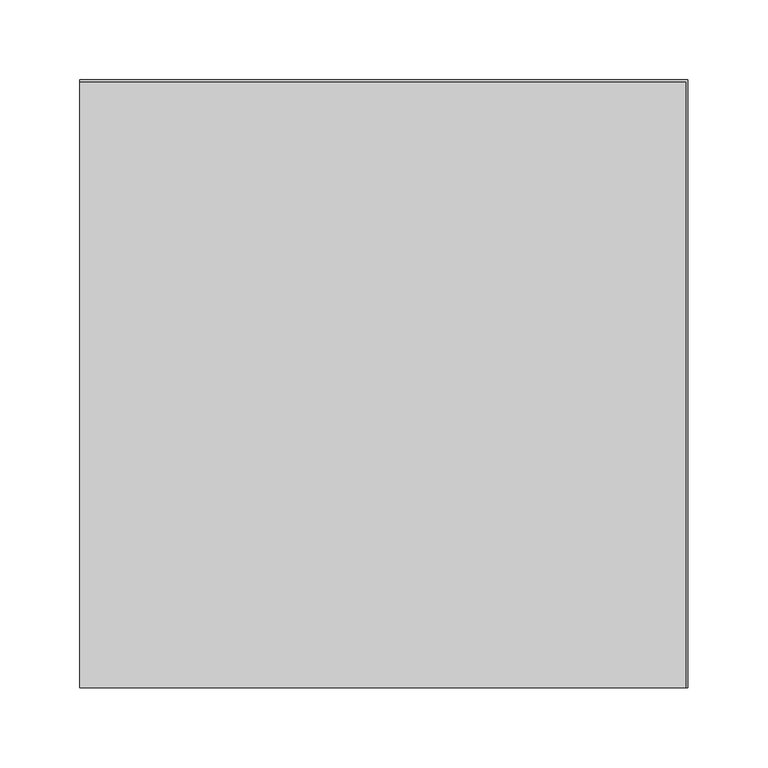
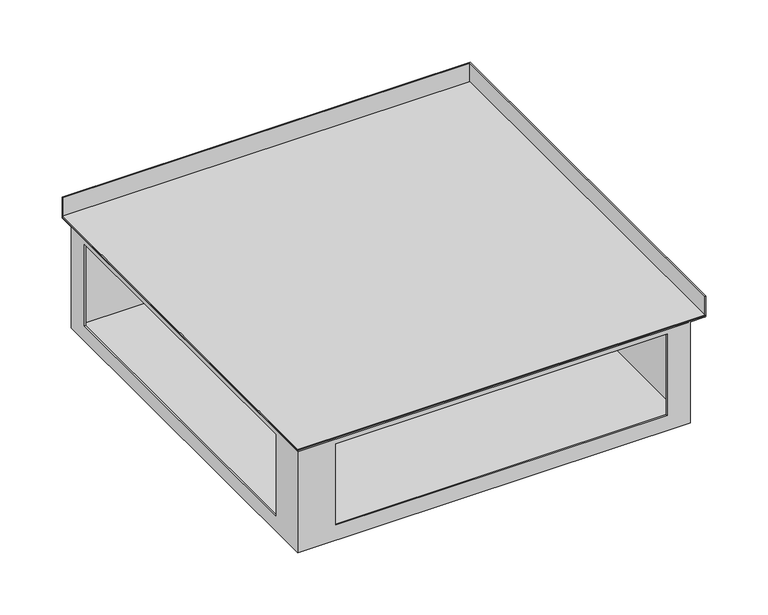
"""IFC4 building model written with IfcOpenShell, lengths in millimetres: proxy geometry, TECHNO_Угловой элемент_KVU : 380_120_90°."""

from ifc_helpers import new_model, si_unit, frame, origin, place, context, project, spatial, polyline, circle_curve, ellipse_curve, outline, extrude, source, transform, mapped, element, save
from ifc_brep_helpers import plane_surface, cylinder_surface, advanced_brep


def mechanical_equipment_f32ddc85(model_context):
    return source(origin(), model_context, "Body", "SolidModel", [
        extrude(outline(polyline([(0.0, 188.8), (378.8, 188.8), (378.8, -190.0), (0.0, -190.0), (0.0, 188.8)])), frame((0.0, 0.0, -19.3), z_axis=(0.0, 0.0, 1.0), x_axis=(1.0, 0.0, 0.0)), (0.0, 0.0, 1.0), 1.2),
        advanced_brep(
        [(1.2, 174.0, -118.8), (1.2, -188.8, -118.8), (364.0, -188.8, -118.8), (364.0, 174.0, -118.8), (0.0, 175.2, -120.0), (365.2, 175.2, -120.0), (365.2, -190.0, -120.0), (0.0, -190.0, -120.0), (0.0, 175.2, -20.5), (0.0, -190.0, -20.5), (0.0, 174.0, -20.5), (0.0, 175.2, -19.3), (0.0, 188.8, -19.3), (0.0, 188.8, 0.0), (0.0, 190.0, 0.0), (0.0, 190.0, -19.3), (0.0, 188.8, -20.5), (0.0, -154.5, -25.0), (0.0, -154.5, -105.0), (0.0, 153.9, -105.0), (0.0, 153.9, -25.0), (365.2, -190.0, -20.5), (378.8, -190.0, -20.5), (380.0, -190.0, -19.3), (380.0, -190.0, 0.0), (378.8, -190.0, 0.0), (378.8, -190.0, -19.3), (365.2, -190.0, -19.3), (364.0, -190.0, -20.5), (35.5, -190.0, -105.0), (35.5, -190.0, -25.0), (343.9, -190.0, -25.0), (343.9, -190.0, -105.0), (365.2, 175.2, -20.5), (1.2, 175.2, -19.3), (1.2, -188.8, -19.3), (365.2, -188.8, -19.3), (378.8, 188.8, -19.3), (365.2, -174.0, -19.3), (16.0, -174.0, -19.3), (16.0, 175.2, -19.3), (365.2, 175.2, -19.3), (16.0, -174.0, -20.5), (16.0, 174.0, -20.5), (364.0, -174.0, -20.5), (364.0, -188.8, -20.5), (1.2, -188.8, -20.5), (1.2, 174.0, -20.5), (1.2, -154.5, -105.0), (1.2, -154.5, -25.0), (1.2, 153.9, -25.0), (1.2, 153.9, -105.0), (35.5, -188.8, -25.0), (35.5, -188.8, -105.0), (343.9, -188.8, -105.0), (343.9, -188.8, -25.0), (380.0, 190.0, -19.3), (380.0, 190.0, 0.0), (378.8, 188.8, 0.0), (378.8, 188.8, -20.5), (364.0, 174.0, -20.5)],
        [
            (0, 1),
            (1, 2),
            (2, 3),
            (3, 0),
            (4, 5),
            (5, 6),
            (6, 7),
            (7, 4),
            (8, 4),
            (7, 9),
            (9, 10),
            (10, 11, circle_curve(frame((0.0, 175.2, -20.5), z_axis=(-1.0, 0.0, 0.0), x_axis=(0.0, -1.0, 0.0)), 1.2)),
            (11, 12),
            (12, 13),
            (13, 14),
            (14, 15),
            (15, 16, circle_curve(frame((0.0, 188.8, -19.3), z_axis=(-1.0, 0.0, 0.0), x_axis=(0.0, -1.0, 0.0)), 1.2)),
            (16, 8),
            (17, 18),
            (18, 19),
            (19, 20),
            (20, 17),
            (6, 21),
            (21, 22),
            (22, 23, circle_curve(frame((378.8, -190.0, -19.3), z_axis=(0.0, -1.0, 0.0), x_axis=(-1.0, 0.0, 0.0)), 1.2)),
            (23, 24),
            (24, 25),
            (25, 26),
            (26, 27),
            (27, 28, circle_curve(frame((365.2, -190.0, -20.5), z_axis=(0.0, -1.0, 0.0), x_axis=(-1.0, 0.0, 0.0)), 1.2)),
            (28, 9),
            (29, 30),
            (30, 31),
            (31, 32),
            (32, 29),
            (8, 33),
            (33, 5),
            (33, 21),
            (34, 35),
            (35, 36),
            (36, 27),
            (26, 37),
            (37, 12),
            (11, 34),
            (38, 39),
            (39, 40),
            (40, 41),
            (41, 38),
            (39, 42),
            (42, 43),
            (43, 40, circle_curve(frame((16.0, 175.2, -20.5), z_axis=(-1.0, 0.0, 0.0), x_axis=(0.0, -1.0, 0.0)), 1.2)),
            (38, 44, circle_curve(frame((365.2, -174.0, -20.5), z_axis=(0.0, -1.0, 0.0), x_axis=(-1.0, 0.0, 0.0)), 1.2)),
            (44, 42),
            (44, 45),
            (45, 46),
            (46, 47),
            (47, 43),
            (46, 1),
            (0, 47),
            (48, 49),
            (49, 50),
            (50, 51),
            (51, 48),
            (45, 2),
            (52, 53),
            (53, 54),
            (54, 55),
            (55, 52),
            (34, 10, ellipse_curve(frame((1.2, 175.2, -20.5), z_axis=(0.7071067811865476, -0.7071067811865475, 0.0), x_axis=(0.7071067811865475, 0.7071067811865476, 0.0)), 1.6970563, 1.2)),
            (9, 35, ellipse_curve(frame((1.2, -188.8, -20.5), z_axis=(-0.7071067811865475, 0.7071067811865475, 0.0), x_axis=(0.7071067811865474, 0.7071067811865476, 0.0)), 1.6970563, 1.2)),
            (28, 36, ellipse_curve(frame((365.2, -188.8, -20.5), z_axis=(-0.7071067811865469, 0.707106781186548, 0.0), x_axis=(-0.7071067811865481, -0.7071067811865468, 0.0)), 1.6970563, 1.2)),
            (23, 56),
            (56, 57),
            (57, 24),
            (57, 14),
            (13, 58),
            (58, 25),
            (58, 37),
            (16, 59),
            (59, 22),
            (59, 56, ellipse_curve(frame((378.8, 188.8, -19.3), z_axis=(0.707106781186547, -0.707106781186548, 0.0), x_axis=(-0.707106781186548, -0.707106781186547, 0.0)), 1.6970563, 1.2)),
            (56, 15),
            (41, 60, ellipse_curve(frame((365.2, 175.2, -20.5), z_axis=(0.707106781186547, -0.707106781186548, 0.0), x_axis=(-0.707106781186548, -0.707106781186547, 0.0)), 1.6970563, 1.2)),
            (60, 44),
            (60, 3),
            (43, 60),
            (48, 18),
            (17, 49),
            (51, 19),
            (50, 20),
            (52, 30),
            (29, 53),
            (55, 31),
            (54, 32),
        ],
        [
            plane_surface(frame((0.0, 174.0, -118.8), z_axis=(0.0, 0.0, 1.0), x_axis=(0.0, -1.0, 0.0))),
            plane_surface(frame((0.0, 174.0, -120.0), z_axis=(0.0, 0.0, -1.0), x_axis=(0.0, 1.0, 0.0))),
            plane_surface(frame((0.0, 174.0, -118.8), z_axis=(-1.0, 0.0, 0.0), x_axis=(0.0, 0.0, -1.0))),
            plane_surface(frame((0.0, -190.0, -118.8), z_axis=(0.0, -1.0, 0.0), x_axis=(0.0, 0.0, -1.0))),
            plane_surface(frame((0.0, 175.2, -120.0), z_axis=(0.0, 1.0, 0.0), x_axis=(0.0, 0.0, -1.0))),
            plane_surface(frame((365.2, -190.0, -120.0), z_axis=(1.0, 0.0, 0.0), x_axis=(0.0, 0.0, -1.0))),
            plane_surface(frame((1.2, 175.2, -19.3), z_axis=(0.0, 0.0, 1.0), x_axis=(0.0, -1.0, 0.0))),
            plane_surface(frame((16.0, 175.2, -19.3), z_axis=(1.0, 0.0, 0.0), x_axis=(0.0, -1.0, 0.0))),
            plane_surface(frame((16.0, -174.0, -19.3), z_axis=(0.0, 1.0, 0.0), x_axis=(1.0, 0.0, 0.0))),
            plane_surface(frame((16.0, 175.2, -20.5), z_axis=(0.0, 0.0, -1.0), x_axis=(0.0, -1.0, 0.0))),
            plane_surface(frame((1.2, 175.2, -20.5), z_axis=(1.0, 0.0, 0.0), x_axis=(0.0, -1.0, 0.0))),
            plane_surface(frame((1.2, -188.8, -20.5), z_axis=(0.0, 1.0, 0.0), x_axis=(1.0, 0.0, 0.0))),
            cylinder_surface(frame((1.2, 175.2, -20.5), z_axis=(0.0, 1.0, 0.0), x_axis=(-1.0, 0.0, 0.0)), 1.2),
            cylinder_surface(frame((0.0, -188.8, -20.5), z_axis=(-1.0, 0.0, 0.0), x_axis=(0.0, -1.0, 0.0)), 1.2),
            plane_surface(frame((380.0, -190.0, -19.3), z_axis=(1.0, 0.0, 0.0), x_axis=(0.0, 1.0, 0.0))),
            plane_surface(frame((380.0, -190.0, 0.0), z_axis=(0.0, 0.0, 1.0), x_axis=(0.0, 1.0, 0.0))),
            plane_surface(frame((378.8, -190.0, 0.0), z_axis=(-1.0, 0.0, 0.0), x_axis=(0.0, 1.0, 0.0))),
            plane_surface(frame((365.2, -190.0, -20.5), z_axis=(0.0, 0.0, -1.0), x_axis=(0.0, 1.0, 0.0))),
            cylinder_surface(frame((378.8, -190.0, -19.3), z_axis=(0.0, -1.0, 0.0), x_axis=(-1.0, 0.0, 0.0)), 1.2),
            plane_surface(frame((380.0, 190.0, -19.3), z_axis=(0.0, 1.0, 0.0), x_axis=(-1.0, 0.0, 0.0))),
            plane_surface(frame((378.8, 188.8, 0.0), z_axis=(0.0, -1.0, 0.0), x_axis=(-1.0, 0.0, 0.0))),
            cylinder_surface(frame((190.0, 188.8, -19.3), z_axis=(1.0, 0.0, 0.0), x_axis=(0.0, -1.0, 0.0)), 1.2),
            cylinder_surface(frame((365.2, -190.0, -20.5), z_axis=(0.0, -1.0, 0.0), x_axis=(-1.0, 0.0, 0.0)), 1.2),
            plane_surface(frame((364.0, -190.0, -20.5), z_axis=(-1.0, 0.0, 0.0), x_axis=(0.0, 1.0, 0.0))),
            cylinder_surface(frame((190.0, 175.2, -20.5), z_axis=(1.0, 0.0, 0.0), x_axis=(0.0, -1.0, 0.0)), 1.2),
            plane_surface(frame((364.0, 174.0, -20.5), z_axis=(0.0, -1.0, 0.0), x_axis=(-1.0, 0.0, 0.0))),
            plane_surface(frame((1.2, -154.5, -25.0), z_axis=(0.0, 1.0, 0.0), x_axis=(-1.0, 0.0, 0.0))),
            plane_surface(frame((1.2, -154.5, -105.0), z_axis=(0.0, 0.0, 1.0), x_axis=(-1.0, 0.0, 0.0))),
            plane_surface(frame((1.2, 153.9, -105.0), z_axis=(0.0, -1.0, 0.0), x_axis=(-1.0, 0.0, 0.0))),
            plane_surface(frame((1.2, 153.9, -25.0), z_axis=(0.0, 0.0, -1.0), x_axis=(-1.0, 0.0, 0.0))),
            plane_surface(frame((35.5, -188.8, -105.0), z_axis=(1.0, 0.0, 0.0), x_axis=(0.0, -1.0, 0.0))),
            plane_surface(frame((35.5, -188.8, -25.0), z_axis=(0.0, 0.0, -1.0), x_axis=(0.0, -1.0, 0.0))),
            plane_surface(frame((343.9, -188.8, -25.0), z_axis=(-1.0, 0.0, 0.0), x_axis=(0.0, -1.0, 0.0))),
            plane_surface(frame((343.9, -188.8, -105.0), z_axis=(0.0, 0.0, 1.0), x_axis=(0.0, -1.0, 0.0))),
        ],
        [
            (0, [[1, 2, 3, 4]]),
            (1, [[5, 6, 7, 8]]),
            (2, [[9, -8, 10, 11, 12, 13, 14, 15, 16, 17, 18], [19, 20, 21, 22]]),
            (3, [[23, 24, 25, 26, 27, 28, 29, 30, 31, -10, -7], [32, 33, 34, 35]]),
            (4, [[-9, 36, 37, -5]]),
            (5, [[-23, -6, -37, 38]]),
            (6, [[39, 40, 41, -29, 42, 43, -13, 44], [45, 46, 47, 48]]),
            (7, [[-46, 49, 50, 51]]),
            (8, [[-45, 52, 53, -49]]),
            (9, [[-50, -53, 54, 55, 56, 57]]),
            (10, [[58, -1, 59, -56], [60, 61, 62, 63]]),
            (11, [[-58, -55, 64, -2], [65, 66, 67, 68]]),
            (12, [[-39, 69, -11, 70]]),
            (13, [[-40, -70, -31, 71]]),
            (14, [[-26, 72, 73, 74]]),
            (15, [[-27, -74, 75, -15, 76, 77]]),
            (16, [[-28, -77, 78, -42]]),
            (17, [[-24, -38, -36, -18, 79, 80]]),
            (18, [[-25, -80, 81, -72]]),
            (19, [[-73, 82, -16, -75]]),
            (20, [[-76, -14, -43, -78]]),
            (21, [[-79, -17, -82, -81]]),
            (22, [[-30, -41, -71]]),
            (22, [[83, 84, -52, -48]]),
            (23, [[85, -3, -64, -54, -84]]),
            (24, [[-12, -69, -44]]),
            (24, [[-83, -47, -51, 86]]),
            (25, [[-85, -86, -57, -59, -4]]),
            (26, [[87, -19, 88, -60]]),
            (27, [[-87, -63, 89, -20]]),
            (28, [[-89, -62, 90, -21]]),
            (29, [[-88, -22, -90, -61]]),
            (30, [[91, -32, 92, -65]]),
            (31, [[-91, -68, 93, -33]]),
            (32, [[-93, -67, 94, -34]]),
            (33, [[-92, -35, -94, -66]]),
        ],
    ),
    ])


if __name__ == "__main__":
    model = new_model("IFC4")
    model_context = context("Model", 3, world=origin())
    ifc_project = project(units=[si_unit("LENGTHUNIT", "METRE", prefix="MILLI")], contexts=[model_context])
    site = spatial("IfcSite", under=ifc_project)
    building = spatial("IfcBuilding", under=site)
    placement = place(None, origin())
    mechanical_equipment_shape = mechanical_equipment_f32ddc85(model_context)
    element("IfcBuildingElementProxy", 1, Name="TECHNO_Угловой элемент_KVU : 380_120_90°", ObjectType="TECHNO_Угловой элемент_KVU : 380_120_90°", at=placement, inside=building, context=model_context, shape_type="MappedRepresentation", body=[
        mapped(mechanical_equipment_shape, transform((0.0, 0.0, 0.0), x_axis=(1.0, 0.0, 0.0), y_axis=(0.0, 1.0, 0.0), z_axis=(0.0, 0.0, 1.0))),
    ])
    save(model, "model.ifc")
